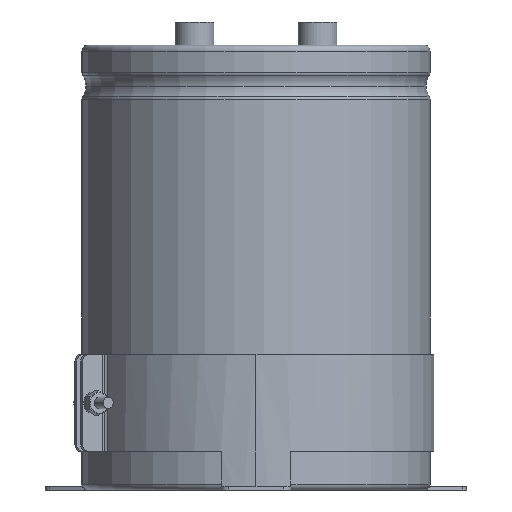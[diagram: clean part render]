
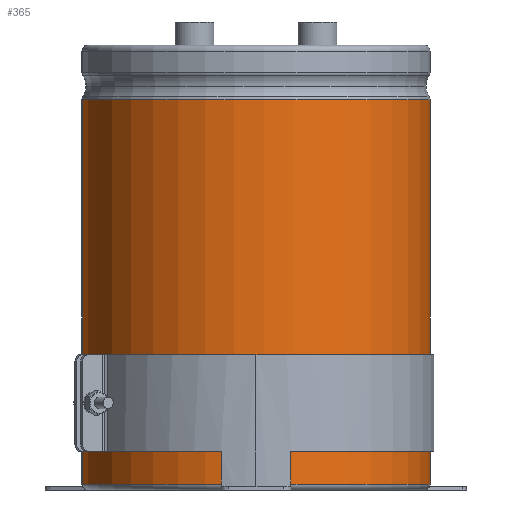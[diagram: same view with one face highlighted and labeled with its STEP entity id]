
A CAD part, left-side view. The second image highlights one B-rep face of the part: STEP entity #365.
In plain terms, the highlighted cylindrical face has radius 45 mm (diameter 90 mm), a partial arc.
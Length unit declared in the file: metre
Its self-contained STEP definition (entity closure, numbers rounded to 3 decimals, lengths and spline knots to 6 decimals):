
#365=ADVANCED_FACE('0:237',(#597),#598,.T.);
#597=FACE_OUTER_BOUND('',#1082,.T.);
#598=CYLINDRICAL_SURFACE('',#1083,0.045);
#1082=EDGE_LOOP('',(#2038,#2039,#2040,#2041));
#1083=AXIS2_PLACEMENT_3D('',#2042,#2043,#2044);
#2038=ORIENTED_EDGE('',*,*,#2995,.T.);
#2039=ORIENTED_EDGE('',*,*,#3004,.T.);
#2040=ORIENTED_EDGE('',*,*,#3006,.T.);
#2041=ORIENTED_EDGE('',*,*,#3007,.F.);
#2042=CARTESIAN_POINT('',(0.0,0.0,0.0));
#2043=DIRECTION('',(-0.0,0.0,1.0));
#2044=DIRECTION('',(0.0,1.0,0.0));
#2995=EDGE_CURVE('',#5626,#5634,#5635,.T.);
#3004=EDGE_CURVE('0:309',#5634,#5645,#5647,.T.);
#3006=EDGE_CURVE('0:312',#5645,#5649,#5650,.T.);
#3007=EDGE_CURVE('0:315',#5626,#5649,#5651,.T.);
#5626=VERTEX_POINT('',#6662);
#5634=VERTEX_POINT('',#6670);
#5635=LINE('',#6671,#6672);
#5645=VERTEX_POINT('',#6683);
#5647=CIRCLE('',#6685,0.045);
#5649=VERTEX_POINT('',#6687);
#5650=LINE('',#6688,#6689);
#5651=CIRCLE('',#6690,0.045);
#6662=CARTESIAN_POINT('',(0.,-0.045,0.0015));
#6670=CARTESIAN_POINT('',(0.,-0.045,0.1009));
#6671=CARTESIAN_POINT('',(0.,-0.045,0.0512));
#6672=VECTOR('',#8209,1.0);
#6683=CARTESIAN_POINT('',(-0.004,0.044822,0.1009));
#6685=AXIS2_PLACEMENT_3D('',#8226,#8227,#8228);
#6687=CARTESIAN_POINT('',(-0.004,0.044822,0.0015));
#6688=CARTESIAN_POINT('',(-0.004,0.044822,0.1009));
#6689=VECTOR('',#8229,0.001);
#6690=AXIS2_PLACEMENT_3D('',#8230,#8231,#8232);
#8209=DIRECTION('',(0.0,0.0,1.0));
#8226=CARTESIAN_POINT('',(0.0,0.0,0.1009));
#8227=DIRECTION('',(0.0,0.0,-1.0));
#8228=DIRECTION('',(0.0,1.0,0.0));
#8229=DIRECTION('',(0.0,0.0,-1.0));
#8230=CARTESIAN_POINT('',(0.0,0.0,0.0015));
#8231=DIRECTION('',(0.0,0.0,-1.0));
#8232=DIRECTION('',(0.0,1.0,0.0));
